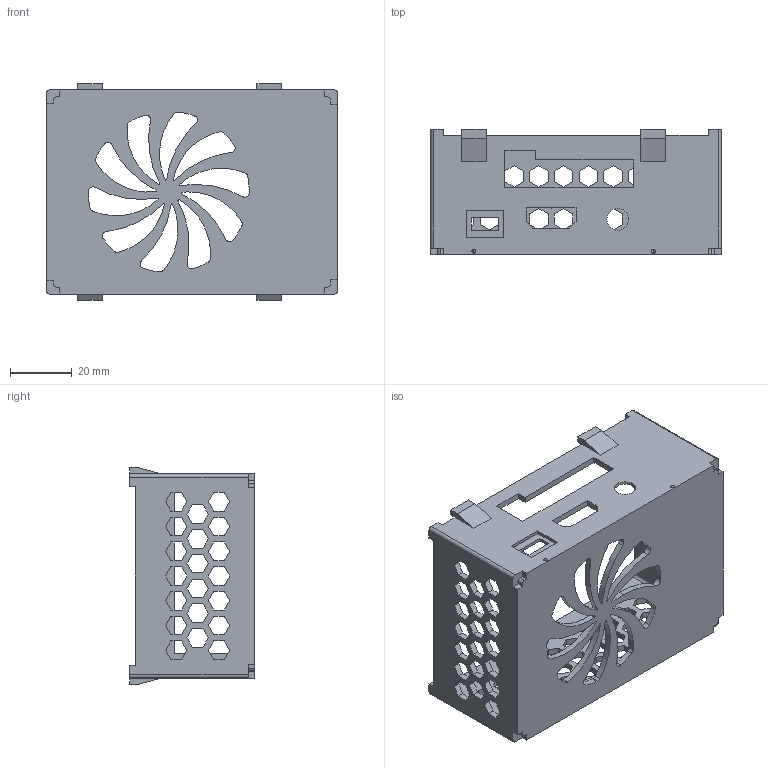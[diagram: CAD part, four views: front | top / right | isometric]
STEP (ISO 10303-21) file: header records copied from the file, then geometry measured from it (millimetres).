
FILE_DESCRIPTION (( 'STEP AP214' ), '1' );
FILE_NAME ('RPI3-AMP-case.STEP', '2019-09-17T19:16:02', ( '' ), ( '' ), 'SwSTEP 2.0', 'SolidWorks 2016', '' );
FILE_SCHEMA (( 'AUTOMOTIVE_DESIGN' ));
Length unit declared in the file: millimetre
Products named in the file (1): RPI3-AMP-case
Bounding box: 94 x 40.4 x 70 mm (x, y, z)
Volume: 29333.5 mm3; surface area: 31415.4 mm2
Topology: 1 solids, 1 shells, 764 faces, 2211 edges, 1466 vertices
Faces by surface type: plane 562, cylinder 116, bspline 70, sphere 16
Entity records: 28203 total; most frequent: CARTESIAN_POINT 8192, ORIENTED_EDGE 4358, DIRECTION 3695, EDGE_CURVE 2179, VECTOR 1773, LINE 1773, VERTEX_POINT 1450, AXIS2_PLACEMENT_3D 961
